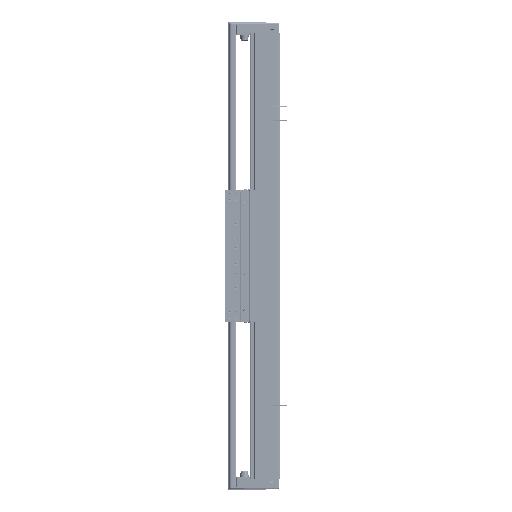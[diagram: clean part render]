
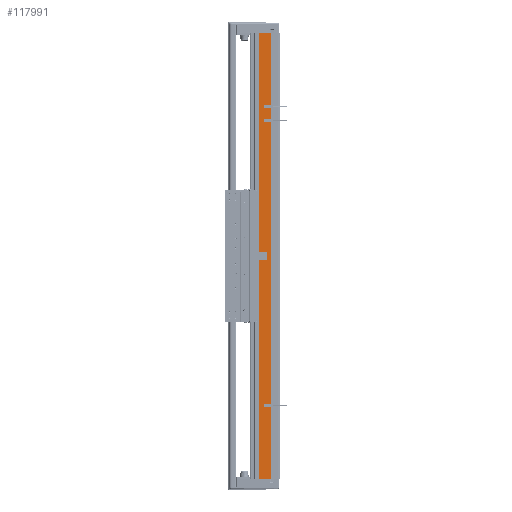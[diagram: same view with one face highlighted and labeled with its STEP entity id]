
A CAD part, left-side view. The second image highlights one B-rep face of the part: STEP entity #117991.
In plain terms, the highlighted planar face has unit normal (-1, 0, 0).
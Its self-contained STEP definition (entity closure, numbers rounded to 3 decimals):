
#3654 = CARTESIAN_POINT ( 'NONE',  ( -97.5, 36.95, 420. ) ) ;
#3920 = EDGE_CURVE ( 'NONE', #131583, #44988, #65061, .T. ) ;
#3979 = CARTESIAN_POINT ( 'NONE',  ( -97.5, 14.45, -420. ) ) ;
#4978 = VERTEX_POINT ( 'NONE', #17092 ) ;
#8492 = EDGE_CURVE ( 'NONE', #4978, #131583, #48967, .T. ) ;
#9365 = ORIENTED_EDGE ( 'NONE', *, *, #8492, .T. ) ;
#17092 = CARTESIAN_POINT ( 'NONE',  ( -97.5, 36.95, 420. ) ) ;
#31501 = VECTOR ( 'NONE', #92960, 1000. ) ;
#31565 = ORIENTED_EDGE ( 'NONE', *, *, #3920, .T. ) ;
#33862 = VECTOR ( 'NONE', #63079, 1000. ) ;
#34872 = PLANE ( 'NONE',  #62356 ) ;
#38121 = EDGE_CURVE ( 'NONE', #4978, #40461, #49248, .T. ) ;
#39334 = EDGE_CURVE ( 'NONE', #40461, #44988, #117900, .T. ) ;
#39664 = CARTESIAN_POINT ( 'NONE',  ( -97.5, 36.95, -420. ) ) ;
#40461 = VERTEX_POINT ( 'NONE', #50475 ) ;
#44988 = VERTEX_POINT ( 'NONE', #3979 ) ;
#48967 = LINE ( 'NONE', #122515, #136069 ) ;
#49248 = LINE ( 'NONE', #69364, #31501 ) ;
#50475 = CARTESIAN_POINT ( 'NONE',  ( -97.5, 14.45, 420. ) ) ;
#62356 = AXIS2_PLACEMENT_3D ( 'NONE', #3654, #129981, #66154 ) ;
#63079 = DIRECTION ( 'NONE',  ( 0., 0., -1. ) ) ;
#65061 = LINE ( 'NONE', #110117, #119060 ) ;
#66154 = DIRECTION ( 'NONE',  ( 0., 1., 0. ) ) ;
#69364 = CARTESIAN_POINT ( 'NONE',  ( -97.5, 36.95, 420. ) ) ;
#72745 = ORIENTED_EDGE ( 'NONE', *, *, #38121, .F. ) ;
#86650 = ORIENTED_EDGE ( 'NONE', *, *, #39334, .F. ) ;
#92960 = DIRECTION ( 'NONE',  ( 0., -1., 0. ) ) ;
#97411 = FACE_OUTER_BOUND ( 'NONE', #97934, .T. ) ;
#97934 = EDGE_LOOP ( 'NONE', ( #31565, #86650, #72745, #9365 ) ) ;
#110117 = CARTESIAN_POINT ( 'NONE',  ( -97.5, 36.95, -420. ) ) ;
#117900 = LINE ( 'NONE', #125546, #33862 ) ;
#117991 = ADVANCED_FACE ( 'NONE', ( #97411 ), #34872, .F. ) ;
#119060 = VECTOR ( 'NONE', #131628, 1000. ) ;
#122515 = CARTESIAN_POINT ( 'NONE',  ( -97.5, 36.95, 420. ) ) ;
#123190 = DIRECTION ( 'NONE',  ( 0., 0., -1. ) ) ;
#125546 = CARTESIAN_POINT ( 'NONE',  ( -97.5, 14.45, 420. ) ) ;
#129981 = DIRECTION ( 'NONE',  ( 1., 0., 0. ) ) ;
#131583 = VERTEX_POINT ( 'NONE', #39664 ) ;
#131628 = DIRECTION ( 'NONE',  ( 0., -1., 0. ) ) ;
#136069 = VECTOR ( 'NONE', #123190, 1000. ) ;
